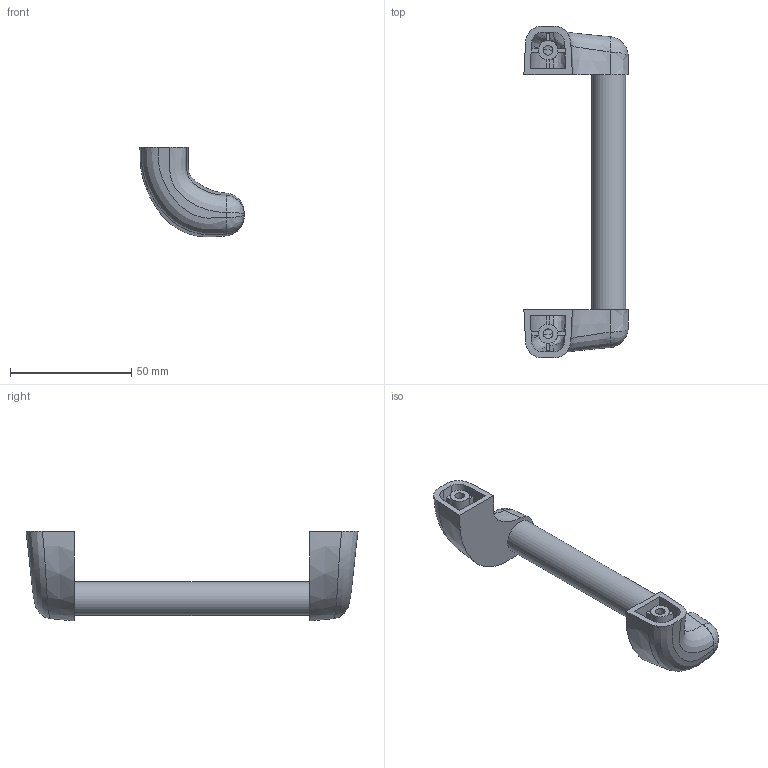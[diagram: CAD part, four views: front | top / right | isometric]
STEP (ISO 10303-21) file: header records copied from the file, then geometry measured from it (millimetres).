
FILE_DESCRIPTION (( 'STEP AP214' ), '1' );
FILE_NAME ('Poignee aurora.step', '2024-12-03T16:10:51', ( '' ), ( '' ), 'SwSTEP 2.0', 'SolidWorks 2023', '' );
FILE_SCHEMA (( 'AUTOMOTIVE_DESIGN' ));
Length unit declared in the file: millimetre
Products named in the file (3): N25009A; L15214; Poignee aurora
Assembly tree (2 placements, depth 2):
  Poignee aurora
    L15214
    N25009A
Bounding box: 43 x 137 x 37.07 mm (x, y, z)
Volume: 27312.8 mm3; surface area: 21698.5 mm2
Topology: 3 solids, 3 shells, 100 faces, 262 edges, 166 vertices
Faces by surface type: plane 42, bspline 40, cylinder 10, cone 6, sphere 2
Full cylindrical faces by diameter (mm): 4 x2, 8 x2, 11 x1, 14 x3
Entity records: 5783 total; most frequent: CARTESIAN_POINT 3719, ORIENTED_EDGE 476, DIRECTION 286, EDGE_CURVE 238, VERTEX_POINT 160, EDGE_LOOP 118, B_SPLINE_CURVE_WITH_KNOTS 116, FACE_OUTER_BOUND 108
